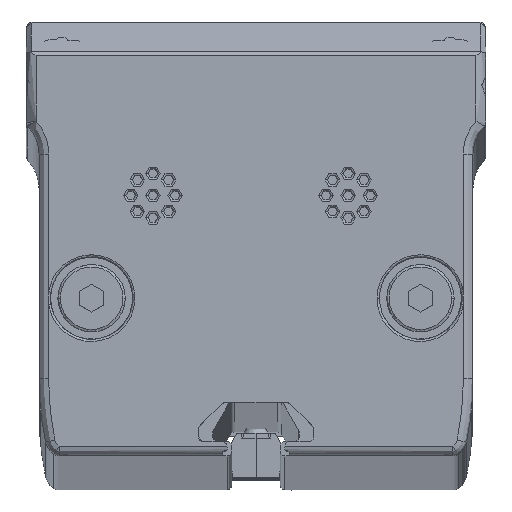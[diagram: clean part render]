
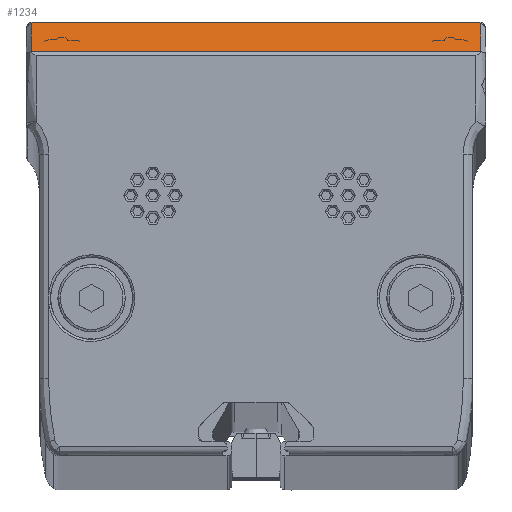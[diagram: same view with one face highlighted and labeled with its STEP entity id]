
A CAD part, top view. The second image highlights one B-rep face of the part: STEP entity #1234.
In plain terms, the highlighted planar face has unit normal (0, 0.858, 0.514).
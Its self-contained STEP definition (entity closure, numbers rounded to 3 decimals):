
#11 = CARTESIAN_POINT ( 'NONE',  ( 23.315, 19.433, 2009.907 ) ) ;
#474 = EDGE_CURVE ( 'NONE', #20095, #12928, #26596, .T. ) ;
#528 = CARTESIAN_POINT ( 'NONE',  ( -23.315, 22.329, 2005.08 ) ) ;
#858 = ORIENTED_EDGE ( 'NONE', *, *, #474, .T. ) ;
#1052 = VECTOR ( 'NONE', #9983, 1000. ) ;
#1217 = ORIENTED_EDGE ( 'NONE', *, *, #3312, .T. ) ;
#1234 = ADVANCED_FACE ( 'NONE', ( #26308 ), #23750, .F. ) ;
#1705 = EDGE_CURVE ( 'NONE', #8218, #7817, #26947, .T. ) ;
#2079 = CARTESIAN_POINT ( 'NONE',  ( 23.215, 22.429, 2004.914 ) ) ;
#3273 = DIRECTION ( 'NONE',  ( 0., 0.514, -0.857 ) ) ;
#3312 = EDGE_CURVE ( 'NONE', #7817, #7661, #6556, .T. ) ;
#3313 = CARTESIAN_POINT ( 'NONE',  ( 23.215, 22.429, 2004.914 ) ) ;
#3733 = CARTESIAN_POINT ( 'NONE',  ( -23.315, 19.287, 2010.15 ) ) ;
#3950 = LINE ( 'NONE', #13130, #21935 ) ;
#4007 = EDGE_CURVE ( 'NONE', #8621, #29606, #19820, .T. ) ;
#4290 = EDGE_CURVE ( 'NONE', #7661, #8621, #3950, .T. ) ;
#4702 = CARTESIAN_POINT ( 'NONE',  ( 23.274, 22.429, 2004.914 ) ) ;
#5156 = ORIENTED_EDGE ( 'NONE', *, *, #27165, .T. ) ;
#5239 = AXIS2_PLACEMENT_3D ( 'NONE', #28563, #26156, #3273 ) ;
#5721 = CARTESIAN_POINT ( 'NONE',  ( 23.215, 22.429, 2004.914 ) ) ;
#6556 =( BOUNDED_CURVE ( )  B_SPLINE_CURVE ( 3, ( #26344, #5721, #3313, #7826 ),
 .UNSPECIFIED., .F., .F. ) 
 B_SPLINE_CURVE_WITH_KNOTS ( ( 4, 4 ),
 ( 6.283, 6.283 ),
 .UNSPECIFIED. ) 
 CURVE ( )  GEOMETRIC_REPRESENTATION_ITEM ( )  RATIONAL_B_SPLINE_CURVE ( ( 1., 1., 1., 1. ) ) 
 REPRESENTATION_ITEM ( '' )  );
#7661 = VERTEX_POINT ( 'NONE', #21953 ) ;
#7677 = DIRECTION ( 'NONE',  ( 0., -0.514, 0.857 ) ) ;
#7727 = CARTESIAN_POINT ( 'NONE',  ( 23.315, 19.287, 2010.15 ) ) ;
#7817 = VERTEX_POINT ( 'NONE', #2079 ) ;
#7826 = CARTESIAN_POINT ( 'NONE',  ( 23.215, 22.429, 2004.914 ) ) ;
#8218 = VERTEX_POINT ( 'NONE', #18269 ) ;
#8294 = ORIENTED_EDGE ( 'NONE', *, *, #4007, .T. ) ;
#8548 = CARTESIAN_POINT ( 'NONE',  ( -23.315, 22.329, 2005.08 ) ) ;
#8621 = VERTEX_POINT ( 'NONE', #9318 ) ;
#9318 = CARTESIAN_POINT ( 'NONE',  ( -23.215, 22.429, 2004.914 ) ) ;
#9983 = DIRECTION ( 'NONE',  ( 0., 0.514, -0.857 ) ) ;
#10715 = CARTESIAN_POINT ( 'NONE',  ( -23.215, 22.429, 2004.914 ) ) ;
#12631 = EDGE_CURVE ( 'NONE', #12928, #8218, #19318, .T. ) ;
#12928 = VERTEX_POINT ( 'NONE', #11 ) ;
#13130 = CARTESIAN_POINT ( 'NONE',  ( -23.215, 22.429, 2004.914 ) ) ;
#13454 = ORIENTED_EDGE ( 'NONE', *, *, #1705, .T. ) ;
#14839 = CARTESIAN_POINT ( 'NONE',  ( 23.82, 19.433, 2009.907 ) ) ;
#15705 = EDGE_LOOP ( 'NONE', ( #858, #24866, #13454, #1217, #18586, #8294, #5156 ) ) ;
#17283 = VECTOR ( 'NONE', #19505, 1000. ) ;
#18269 = CARTESIAN_POINT ( 'NONE',  ( 23.315, 22.329, 2005.08 ) ) ;
#18586 = ORIENTED_EDGE ( 'NONE', *, *, #4290, .T. ) ;
#19051 = CARTESIAN_POINT ( 'NONE',  ( -23.315, 22.387, 2004.983 ) ) ;
#19318 = LINE ( 'NONE', #7727, #1052 ) ;
#19505 = DIRECTION ( 'NONE',  ( 1., 0., 0. ) ) ;
#19526 = VECTOR ( 'NONE', #7677, 1000. ) ;
#19820 =( BOUNDED_CURVE ( )  B_SPLINE_CURVE ( 3, ( #10715, #27946, #19051, #528 ),
 .UNSPECIFIED., .F., .T. ) 
 B_SPLINE_CURVE_WITH_KNOTS ( ( 4, 4 ),
 ( 0., 1.571 ),
 .UNSPECIFIED. ) 
 CURVE ( )  GEOMETRIC_REPRESENTATION_ITEM ( )  RATIONAL_B_SPLINE_CURVE ( ( 1., 0.805, 0.805, 1. ) ) 
 REPRESENTATION_ITEM ( '' )  );
#20095 = VERTEX_POINT ( 'NONE', #26651 ) ;
#21935 = VECTOR ( 'NONE', #22307, 1000. ) ;
#21953 = CARTESIAN_POINT ( 'NONE',  ( 23.215, 22.429, 2004.914 ) ) ;
#22079 = LINE ( 'NONE', #3733, #19526 ) ;
#22307 = DIRECTION ( 'NONE',  ( -1., 0., 0. ) ) ;
#22924 = CARTESIAN_POINT ( 'NONE',  ( 23.215, 22.429, 2004.914 ) ) ;
#23750 = PLANE ( 'NONE',  #5239 ) ;
#24742 = CARTESIAN_POINT ( 'NONE',  ( 23.315, 22.387, 2004.983 ) ) ;
#24866 = ORIENTED_EDGE ( 'NONE', *, *, #12631, .T. ) ;
#24898 = CARTESIAN_POINT ( 'NONE',  ( 23.315, 22.329, 2005.08 ) ) ;
#26156 = DIRECTION ( 'NONE',  ( 0., -0.857, -0.514 ) ) ;
#26308 = FACE_OUTER_BOUND ( 'NONE', #15705, .T. ) ;
#26344 = CARTESIAN_POINT ( 'NONE',  ( 23.215, 22.429, 2004.914 ) ) ;
#26596 = LINE ( 'NONE', #14839, #17283 ) ;
#26651 = CARTESIAN_POINT ( 'NONE',  ( -23.315, 19.433, 2009.907 ) ) ;
#26947 =( BOUNDED_CURVE ( )  B_SPLINE_CURVE ( 3, ( #24898, #24742, #4702, #22924 ),
 .UNSPECIFIED., .F., .T. ) 
 B_SPLINE_CURVE_WITH_KNOTS ( ( 4, 4 ),
 ( 4.712, 6.283 ),
 .UNSPECIFIED. ) 
 CURVE ( )  GEOMETRIC_REPRESENTATION_ITEM ( )  RATIONAL_B_SPLINE_CURVE ( ( 1., 0.805, 0.805, 1. ) ) 
 REPRESENTATION_ITEM ( '' )  );
#27165 = EDGE_CURVE ( 'NONE', #29606, #20095, #22079, .T. ) ;
#27946 = CARTESIAN_POINT ( 'NONE',  ( -23.274, 22.429, 2004.914 ) ) ;
#28563 = CARTESIAN_POINT ( 'NONE',  ( 23.82, 19.287, 2010.15 ) ) ;
#29606 = VERTEX_POINT ( 'NONE', #8548 ) ;
